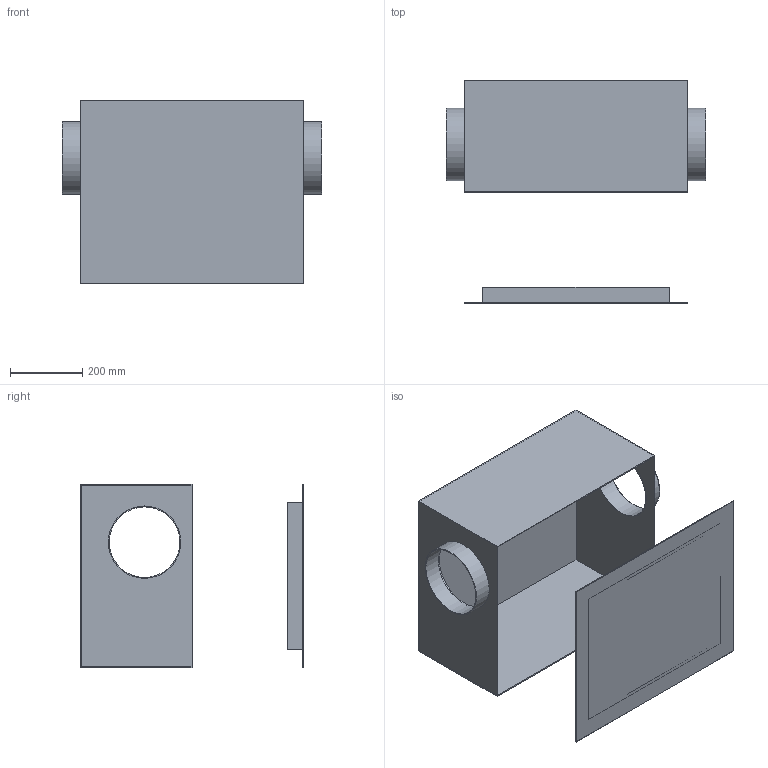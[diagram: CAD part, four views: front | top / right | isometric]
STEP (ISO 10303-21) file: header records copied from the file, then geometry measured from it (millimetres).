
FILE_DESCRIPTION(/* description */ (''),/* implementation_level */ '2;1');
FILE_NAME(/* name */ 'Z:\Output\SB_200_C-09510-002.stp',/* time_stamp */ '2020-12-15T15:45:45+01:00',/* author */ ('engineering1'),/* organization */ (''),/* preprocessor_version */ 'ST-DEVELOPER v17.2',/* originating_system */ 'Autodesk Inventor 2019',/* authorisation */ '');
FILE_SCHEMA (('AUTOMOTIVE_DESIGN { 1 0 10303 214 3 1 1 }'));
Length unit declared in the file: millimetre
Products named in the file (1): SB-1
Bounding box: 716 x 616 x 507 mm (x, y, z)
Volume: 4038132.3 mm3; surface area: 2786977.9 mm2
Topology: 2 solids, 2 shells, 33 faces, 72 edges, 48 vertices
Faces by surface type: plane 29, cylinder 4
Full cylindrical faces by diameter (mm): 195 x2, 200 x2
Entity records: 942 total; most frequent: CARTESIAN_POINT 154, DIRECTION 148, ORIENTED_EDGE 144, EDGE_CURVE 72, LINE 64, VECTOR 64, VERTEX_POINT 48, EDGE_LOOP 42
